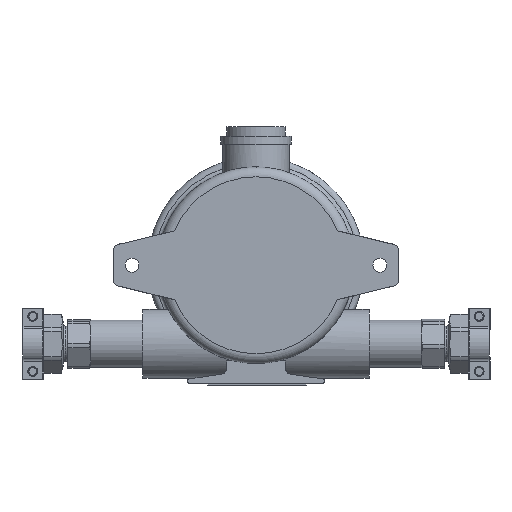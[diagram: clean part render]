
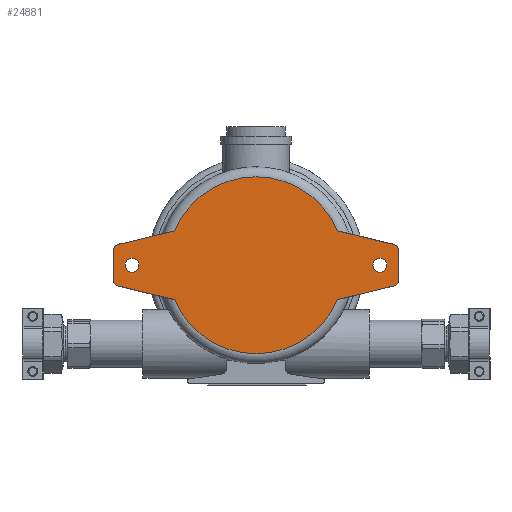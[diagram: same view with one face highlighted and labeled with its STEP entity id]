
A CAD part, front view. The second image highlights one B-rep face of the part: STEP entity #24881.
In plain terms, the highlighted planar face has unit normal (0, -1, 0).
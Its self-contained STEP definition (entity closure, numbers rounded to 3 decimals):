
#738=PLANE('',#26519);
#1644=LINE('',#35016,#3546);
#1652=LINE('',#35040,#3554);
#1654=LINE('',#35064,#3556);
#1659=LINE('',#35101,#3561);
#1663=LINE('',#35109,#3565);
#1665=LINE('',#35134,#3567);
#3546=VECTOR('',#28746,29.574);
#3554=VECTOR('',#28768,29.574);
#3556=VECTOR('',#28776,15.277);
#3561=VECTOR('',#28791,29.574);
#3565=VECTOR('',#28797,29.574);
#3567=VECTOR('',#28805,15.277);
#5400=CIRCLE('',#26492,3.5);
#5402=CIRCLE('',#26495,3.5);
#5407=CIRCLE('',#26503,3.);
#5408=CIRCLE('',#26506,3.);
#5412=CIRCLE('',#26515,3.);
#5413=CIRCLE('',#26518,3.);
#5414=CIRCLE('',#26520,45.);
#5415=CIRCLE('',#26521,45.);
#5997=FACE_BOUND('',#7928,.T.);
#5998=FACE_BOUND('',#7929,.T.);
#6427=FACE_OUTER_BOUND('',#7927,.T.);
#7927=EDGE_LOOP('',(#16584,#16585,#16586,#16587,#16588,#16589,#16590,#16591,
#16592,#16593,#16594,#16595));
#7928=EDGE_LOOP('',(#16596));
#7929=EDGE_LOOP('',(#16597));
#10383=VERTEX_POINT('',#34983);
#10385=VERTEX_POINT('',#34988);
#10389=VERTEX_POINT('',#34996);
#10390=VERTEX_POINT('',#35015);
#10396=VERTEX_POINT('',#35031);
#10398=VERTEX_POINT('',#35037);
#10399=VERTEX_POINT('',#35039);
#10400=VERTEX_POINT('',#35060);
#10408=VERTEX_POINT('',#35081);
#10409=VERTEX_POINT('',#35100);
#10411=VERTEX_POINT('',#35106);
#10412=VERTEX_POINT('',#35108);
#10413=VERTEX_POINT('',#35129);
#10414=VERTEX_POINT('',#35133);
#12817=EDGE_CURVE('',#10383,#10383,#5400,.T.);
#12819=EDGE_CURVE('',#10385,#10385,#5402,.T.);
#12823=EDGE_CURVE('',#10390,#10389,#1644,.T.);
#12831=EDGE_CURVE('',#10396,#10390,#5407,.T.);
#12835=EDGE_CURVE('',#10399,#10398,#1652,.T.);
#12837=EDGE_CURVE('',#10398,#10400,#5408,.T.);
#12839=EDGE_CURVE('',#10400,#10396,#1654,.T.);
#12848=EDGE_CURVE('',#10409,#10408,#1659,.T.);
#12852=EDGE_CURVE('',#10412,#10411,#1663,.T.);
#12854=EDGE_CURVE('',#10411,#10413,#5412,.T.);
#12856=EDGE_CURVE('',#10413,#10414,#1665,.T.);
#12858=EDGE_CURVE('',#10414,#10409,#5413,.T.);
#12859=EDGE_CURVE('',#10412,#10389,#5414,.T.);
#12860=EDGE_CURVE('',#10399,#10408,#5415,.T.);
#16584=ORIENTED_EDGE('',*,*,#12859,.F.);
#16585=ORIENTED_EDGE('',*,*,#12852,.T.);
#16586=ORIENTED_EDGE('',*,*,#12854,.T.);
#16587=ORIENTED_EDGE('',*,*,#12856,.T.);
#16588=ORIENTED_EDGE('',*,*,#12858,.T.);
#16589=ORIENTED_EDGE('',*,*,#12848,.T.);
#16590=ORIENTED_EDGE('',*,*,#12860,.F.);
#16591=ORIENTED_EDGE('',*,*,#12835,.T.);
#16592=ORIENTED_EDGE('',*,*,#12837,.T.);
#16593=ORIENTED_EDGE('',*,*,#12839,.T.);
#16594=ORIENTED_EDGE('',*,*,#12831,.T.);
#16595=ORIENTED_EDGE('',*,*,#12823,.T.);
#16596=ORIENTED_EDGE('',*,*,#12817,.T.);
#16597=ORIENTED_EDGE('',*,*,#12819,.T.);
#24881=ADVANCED_FACE('',(#6427,#5997,#5998),#738,.T.);
#26492=AXIS2_PLACEMENT_3D('',#34984,#28733,#28734);
#26495=AXIS2_PLACEMENT_3D('',#34989,#28739,#28740);
#26503=AXIS2_PLACEMENT_3D('',#35032,#28761,#28762);
#26506=AXIS2_PLACEMENT_3D('',#35061,#28771,#28772);
#26515=AXIS2_PLACEMENT_3D('',#35130,#28800,#28801);
#26518=AXIS2_PLACEMENT_3D('',#35137,#28809,#28810);
#26519=AXIS2_PLACEMENT_3D('',#35138,#28811,#28812);
#26520=AXIS2_PLACEMENT_3D('',#35139,#28813,#28814);
#26521=AXIS2_PLACEMENT_3D('',#35140,#28815,#28816);
#28733=DIRECTION('center_axis',(0.,1.,0.));
#28734=DIRECTION('ref_axis',(-1.,0.,0.));
#28739=DIRECTION('center_axis',(0.,1.,0.));
#28740=DIRECTION('ref_axis',(-1.,0.,0.));
#28746=DIRECTION('',(-0.972,0.,0.235));
#28761=DIRECTION('center_axis',(0.,-1.,0.));
#28762=DIRECTION('ref_axis',(1.,0.,0.));
#28768=DIRECTION('',(0.972,0.,0.235));
#28771=DIRECTION('center_axis',(0.,-1.,0.));
#28772=DIRECTION('ref_axis',(0.235,0.,-0.972));
#28776=DIRECTION('',(0.,0.,1.));
#28791=DIRECTION('',(0.972,0.,-0.235));
#28797=DIRECTION('',(-0.972,0.,-0.235));
#28800=DIRECTION('center_axis',(0.,-1.,0.));
#28801=DIRECTION('ref_axis',(-0.235,0.,0.972));
#28805=DIRECTION('',(0.,0.,-1.));
#28809=DIRECTION('center_axis',(0.,-1.,0.));
#28810=DIRECTION('ref_axis',(-1.,0.,0.));
#28811=DIRECTION('center_axis',(0.,-1.,0.));
#28812=DIRECTION('ref_axis',(0.,0.,-1.));
#28813=DIRECTION('center_axis',(0.,1.,0.));
#28814=DIRECTION('ref_axis',(1.,0.,0.));
#28815=DIRECTION('center_axis',(0.,1.,0.));
#28816=DIRECTION('ref_axis',(1.,0.,0.));
#34983=CARTESIAN_POINT('',(-59.5,0.,0.));
#34984=CARTESIAN_POINT('Origin',(-63.,0.,0.));
#34988=CARTESIAN_POINT('',(66.5,0.,0.));
#34989=CARTESIAN_POINT('Origin',(63.,0.,0.));
#34996=CARTESIAN_POINT('',(41.458,0.,17.5));
#35015=CARTESIAN_POINT('',(70.205,0.,10.555));
#35016=CARTESIAN_POINT('',(70.205,0.,10.555));
#35031=CARTESIAN_POINT('',(72.5,0.,7.639));
#35032=CARTESIAN_POINT('Origin',(69.5,0.,7.639));
#35037=CARTESIAN_POINT('',(70.205,0.,-10.555));
#35039=CARTESIAN_POINT('',(41.458,0.,-17.5));
#35040=CARTESIAN_POINT('',(41.458,0.,-17.5));
#35060=CARTESIAN_POINT('',(72.5,0.,-7.639));
#35061=CARTESIAN_POINT('Origin',(69.5,0.,-7.639));
#35064=CARTESIAN_POINT('',(72.5,0.,-7.639));
#35081=CARTESIAN_POINT('',(-41.458,0.,-17.5));
#35100=CARTESIAN_POINT('',(-70.205,0.,-10.555));
#35101=CARTESIAN_POINT('',(-70.205,0.,-10.555));
#35106=CARTESIAN_POINT('',(-70.205,0.,10.555));
#35108=CARTESIAN_POINT('',(-41.458,0.,17.5));
#35109=CARTESIAN_POINT('',(-41.458,0.,17.5));
#35129=CARTESIAN_POINT('',(-72.5,0.,7.639));
#35130=CARTESIAN_POINT('Origin',(-69.5,0.,7.639));
#35133=CARTESIAN_POINT('',(-72.5,0.,-7.639));
#35134=CARTESIAN_POINT('',(-72.5,0.,7.639));
#35137=CARTESIAN_POINT('Origin',(-69.5,0.,-7.639));
#35138=CARTESIAN_POINT('Origin',(-45.,0.,0.));
#35139=CARTESIAN_POINT('Origin',(0.,0.,0.));
#35140=CARTESIAN_POINT('Origin',(0.,0.,0.));
